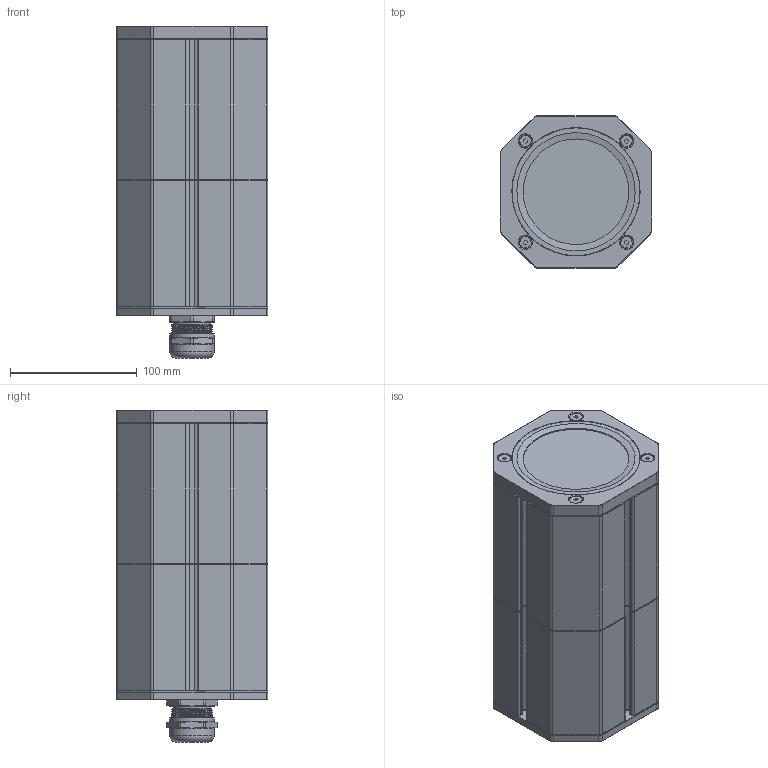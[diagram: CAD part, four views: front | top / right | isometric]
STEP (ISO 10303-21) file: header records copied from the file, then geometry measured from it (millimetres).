
FILE_DESCRIPTION(/* description */ (''),/* implementation_level */ '2;1');
FILE_NAME(/* name */ 'FG-CH87-110-100-M01-F01-B01.stp',/* time_stamp */ '2026-04-14T15:49:53+02:00',/* author */ ('roman'),/* organization */ (''),/* preprocessor_version */ 'ST-DEVELOPER v20',/* originating_system */ 'Autodesk Inventor 2024',/* authorisation */ '');
FILE_SCHEMA (('AUTOMOTIVE_DESIGN { 1 0 10303 214 3 1 1 }'));
Length unit declared in the file: millimetre
Products named in the file (16): FG-CH87-110-100-M01-F01-B01; SUB-CH87-MID-110-100-M01; CH87-BDB-100; CH87-ROD-210; CH87-BDF-110-M01; SUB-CH87-BCK-B01; CH87-CPB-RD; SKINTOP 32x1.5; Matice pruchodky M32x1,5; CH87-SL1; SUB-CH87-FRT-F01; CH87-CPF-RD; CH87-GLS; CH87-SLW; CH87-SL2; DIN 7991 - M5x20
Assembly tree (26 placements, depth 3):
  FG-CH87-110-100-M01-F01-B01
    SUB-CH87-MID-110-100-M01
      CH87-BDB-100
      CH87-ROD-210  x4
      CH87-BDF-110-M01
      CH87-SL1
    SUB-CH87-BCK-B01
      CH87-CPB-RD
      SKINTOP 32x1.5
      Matice pruchodky M32x1,5
    CH87-SL1
    DIN 7991 - M5x20  x8
    SUB-CH87-FRT-F01
      CH87-CPF-RD
      CH87-GLS
      CH87-SLW
    CH87-SL2
Bounding box: 120 x 120 x 262.4 mm (x, y, z)
Volume: 832323.5 mm3; surface area: 496832.4 mm2
Topology: 23 solids, 23 shells, 1027 faces, 2753 edges, 1779 vertices
Faces by surface type: plane 460, cylinder 457, cone 98, torus 9, bspline 3
Full cylindrical faces by diameter (mm): 4 x4, 5 x8, 5.5 x4, 6 x8, 6.8 x20, 8.5 x4, 10 x8, 21.4 x1, 25 x1, 30 x2, 30.376 x1, 32 x6, 32.2 x1, 32.5 x1, 35.3 x2, 83 x1, 83.5 x1, 85.5 x3, 87 x5, 92 x1, 101 x1, 101.5 x1
Entity records: 26352 total; most frequent: CARTESIAN_POINT 5501, DIRECTION 4437, ORIENTED_EDGE 4140, EDGE_CURVE 2070, AXIS2_PLACEMENT_3D 1620, VERTEX_POINT 1342, LINE 1197, VECTOR 1197
